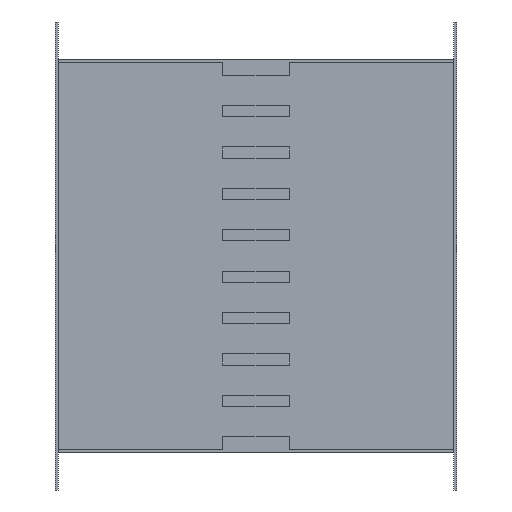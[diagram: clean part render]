
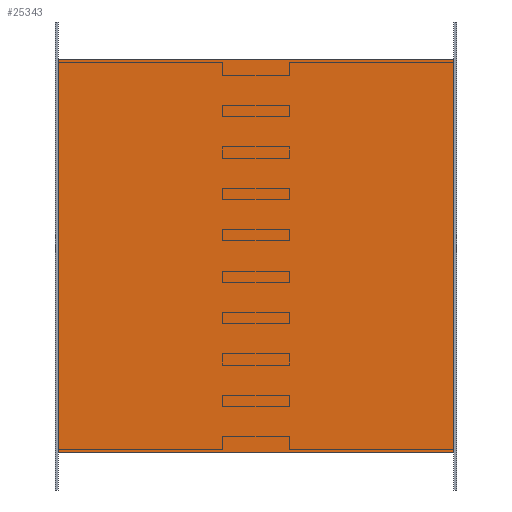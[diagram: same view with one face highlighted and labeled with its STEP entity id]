
A CAD part, left-side view. The second image highlights one B-rep face of the part: STEP entity #25343.
In plain terms, the highlighted planar face has unit normal (-1, 0, 0).
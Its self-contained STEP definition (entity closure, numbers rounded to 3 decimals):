
#1923=FACE_OUTER_BOUND('',#3667,.T.);
#3667=EDGE_LOOP('',(#22937,#22938,#22939,#22940));
#7020=LINE('',#39759,#10356);
#7021=LINE('',#39761,#10357);
#7022=LINE('',#39763,#10358);
#7023=LINE('',#39764,#10359);
#10356=VECTOR('',#32366,10.);
#10357=VECTOR('',#32367,10.);
#10358=VECTOR('',#32368,10.);
#10359=VECTOR('',#32369,10.);
#12684=VERTEX_POINT('',#39757);
#12685=VERTEX_POINT('',#39758);
#12686=VERTEX_POINT('',#39760);
#12687=VERTEX_POINT('',#39762);
#16120=EDGE_CURVE('',#12684,#12685,#7020,.T.);
#16121=EDGE_CURVE('',#12684,#12686,#7021,.T.);
#16122=EDGE_CURVE('',#12686,#12687,#7022,.T.);
#16123=EDGE_CURVE('',#12687,#12685,#7023,.T.);
#22937=ORIENTED_EDGE('',*,*,#16120,.F.);
#22938=ORIENTED_EDGE('',*,*,#16121,.T.);
#22939=ORIENTED_EDGE('',*,*,#16122,.T.);
#22940=ORIENTED_EDGE('',*,*,#16123,.T.);
#24177=PLANE('',#26595);
#25343=ADVANCED_FACE('',(#1923),#24177,.T.);
#26595=AXIS2_PLACEMENT_3D('',#39756,#32364,#32365);
#32364=DIRECTION('center_axis',(-1.,0.,0.));
#32365=DIRECTION('ref_axis',(0.,0.,1.));
#32366=DIRECTION('',(0.,-1.,0.));
#32367=DIRECTION('',(0.,0.,-1.));
#32368=DIRECTION('',(0.,-1.,0.));
#32369=DIRECTION('',(0.,0.,1.));
#39756=CARTESIAN_POINT('Origin',(-247.,0.,-147.));
#39757=CARTESIAN_POINT('',(-247.,148.,147.));
#39758=CARTESIAN_POINT('',(-247.,-148.,147.));
#39759=CARTESIAN_POINT('',(-247.,0.,147.));
#39760=CARTESIAN_POINT('',(-247.,148.,-147.));
#39761=CARTESIAN_POINT('',(-247.,148.,-73.5));
#39762=CARTESIAN_POINT('',(-247.,-148.,-147.));
#39763=CARTESIAN_POINT('',(-247.,0.,-147.));
#39764=CARTESIAN_POINT('',(-247.,-148.,-73.5));
